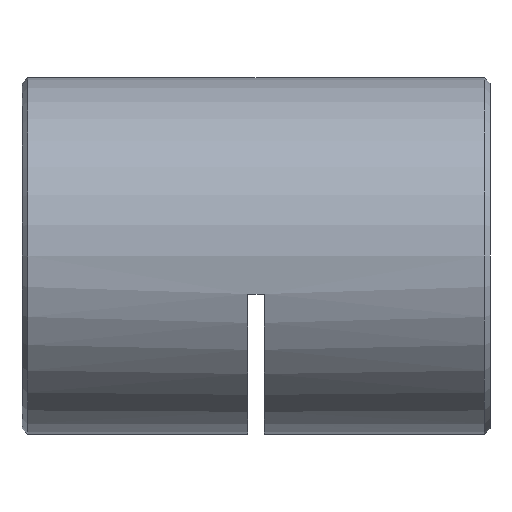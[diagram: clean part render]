
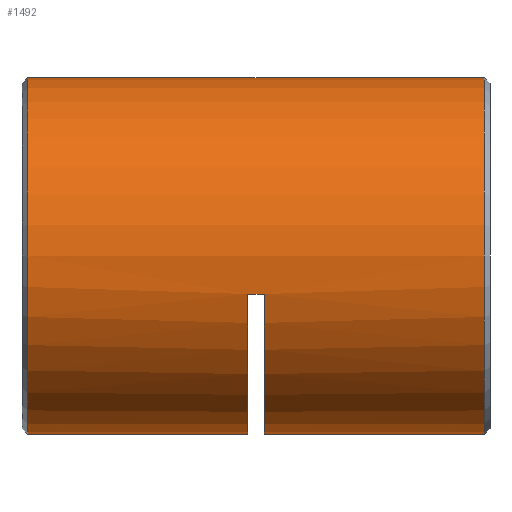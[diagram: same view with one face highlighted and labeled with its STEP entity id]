
A CAD part, left-side view. The second image highlights one B-rep face of the part: STEP entity #1492.
In plain terms, the highlighted cylindrical face has radius 16 mm (diameter 32 mm), a partial arc.
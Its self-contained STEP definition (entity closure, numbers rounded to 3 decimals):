
#22 = CYLINDRICAL_SURFACE ( 'NONE', #2921, 16. ) ;
#150 = VERTEX_POINT ( 'NONE', #2913 ) ;
#170 = VERTEX_POINT ( 'NONE', #2526 ) ;
#279 = VECTOR ( 'NONE', #691, 1000. ) ;
#377 = CARTESIAN_POINT ( 'NONE',  ( 0., 0.75, 0. ) ) ;
#420 = CARTESIAN_POINT ( 'NONE',  ( 0., 41.75, 0. ) ) ;
#630 = DIRECTION ( 'NONE',  ( 0., 0., -1. ) ) ;
#687 = DIRECTION ( 'NONE',  ( 0., 0., -1. ) ) ;
#691 = DIRECTION ( 'NONE',  ( 0., -1., 0. ) ) ;
#903 = CARTESIAN_POINT ( 'NONE',  ( 0., 20.5, 0. ) ) ;
#923 = DIRECTION ( 'NONE',  ( 0., -1., 0. ) ) ;
#943 = CARTESIAN_POINT ( 'NONE',  ( 0., 41.75, -16. ) ) ;
#971 = CIRCLE ( 'NONE', #5929, 16. ) ;
#1357 = DIRECTION ( 'NONE',  ( 0., 1., 0. ) ) ;
#1386 = EDGE_CURVE ( 'NONE', #4495, #4157, #1502, .T. ) ;
#1395 = VERTEX_POINT ( 'NONE', #943 ) ;
#1457 = ORIENTED_EDGE ( 'NONE', *, *, #2441, .T. ) ;
#1492 = ADVANCED_FACE ( 'NONE', ( #3980 ), #22, .T. ) ;
#1502 = CIRCLE ( 'NONE', #3112, 16. ) ;
#1560 = CARTESIAN_POINT ( 'NONE',  ( -15.632, 20.5, -3.413 ) ) ;
#1606 = EDGE_LOOP ( 'NONE', ( #2771, #4479, #1953, #2582, #1457, #2572, #4189, #3144 ) ) ;
#1626 = CARTESIAN_POINT ( 'NONE',  ( -15.632, 22., -3.413 ) ) ;
#1873 = CARTESIAN_POINT ( 'NONE',  ( 0., 22., 0. ) ) ;
#1953 = ORIENTED_EDGE ( 'NONE', *, *, #5222, .T. ) ;
#2117 = EDGE_CURVE ( 'NONE', #150, #170, #971, .T. ) ;
#2250 = CARTESIAN_POINT ( 'NONE',  ( -15.632, 21.25, -3.413 ) ) ;
#2441 = EDGE_CURVE ( 'NONE', #4231, #4495, #5826, .T. ) ;
#2470 = EDGE_CURVE ( 'NONE', #4157, #150, #4649, .T. ) ;
#2489 = CARTESIAN_POINT ( 'NONE',  ( 0., 41.75, 16. ) ) ;
#2526 = CARTESIAN_POINT ( 'NONE',  ( 0., 0.75, 16. ) ) ;
#2538 = DIRECTION ( 'NONE',  ( 0., -1., 0. ) ) ;
#2572 = ORIENTED_EDGE ( 'NONE', *, *, #1386, .T. ) ;
#2582 = ORIENTED_EDGE ( 'NONE', *, *, #5848, .F. ) ;
#2615 = DIRECTION ( 'NONE',  ( 0., -1., 0. ) ) ;
#2771 = ORIENTED_EDGE ( 'NONE', *, *, #3547, .F. ) ;
#2778 = VERTEX_POINT ( 'NONE', #2489 ) ;
#2913 = CARTESIAN_POINT ( 'NONE',  ( 0., 0.75, -16. ) ) ;
#2920 = DIRECTION ( 'NONE',  ( 0., 0., -1. ) ) ;
#2921 = AXIS2_PLACEMENT_3D ( 'NONE', #3596, #2615, #687 ) ;
#3053 = AXIS2_PLACEMENT_3D ( 'NONE', #1873, #6299, #3387 ) ;
#3054 = VECTOR ( 'NONE', #3345, 1000. ) ;
#3058 = CARTESIAN_POINT ( 'NONE',  ( 0., 20.5, -16. ) ) ;
#3112 = AXIS2_PLACEMENT_3D ( 'NONE', #903, #923, #2920 ) ;
#3144 = ORIENTED_EDGE ( 'NONE', *, *, #2117, .T. ) ;
#3345 = DIRECTION ( 'NONE',  ( 0., -1., 0. ) ) ;
#3387 = DIRECTION ( 'NONE',  ( 0., 0., -1. ) ) ;
#3440 = VECTOR ( 'NONE', #4328, 1000. ) ;
#3547 = EDGE_CURVE ( 'NONE', #2778, #170, #5892, .T. ) ;
#3596 = CARTESIAN_POINT ( 'NONE',  ( 0., 42.5, 0. ) ) ;
#3633 = LINE ( 'NONE', #4004, #5163 ) ;
#3811 = VERTEX_POINT ( 'NONE', #5456 ) ;
#3884 = CARTESIAN_POINT ( 'NONE',  ( 0., 42.5, 16. ) ) ;
#3980 = FACE_OUTER_BOUND ( 'NONE', #1606, .T. ) ;
#4004 = CARTESIAN_POINT ( 'NONE',  ( 0., 42.5, -16. ) ) ;
#4028 = CIRCLE ( 'NONE', #6150, 16. ) ;
#4157 = VERTEX_POINT ( 'NONE', #3058 ) ;
#4189 = ORIENTED_EDGE ( 'NONE', *, *, #2470, .T. ) ;
#4231 = VERTEX_POINT ( 'NONE', #1626 ) ;
#4328 = DIRECTION ( 'NONE',  ( 0., -1., 0. ) ) ;
#4355 = DIRECTION ( 'NONE',  ( 0., 0., 1. ) ) ;
#4479 = ORIENTED_EDGE ( 'NONE', *, *, #5506, .T. ) ;
#4495 = VERTEX_POINT ( 'NONE', #1560 ) ;
#4649 = LINE ( 'NONE', #5240, #3440 ) ;
#4682 = CIRCLE ( 'NONE', #3053, 16. ) ;
#5014 = DIRECTION ( 'NONE',  ( 0., -1., 0. ) ) ;
#5163 = VECTOR ( 'NONE', #2538, 1000. ) ;
#5222 = EDGE_CURVE ( 'NONE', #1395, #3811, #3633, .T. ) ;
#5240 = CARTESIAN_POINT ( 'NONE',  ( 0., 42.5, -16. ) ) ;
#5456 = CARTESIAN_POINT ( 'NONE',  ( 0., 22., -16. ) ) ;
#5506 = EDGE_CURVE ( 'NONE', #2778, #1395, #4028, .T. ) ;
#5826 = LINE ( 'NONE', #2250, #279 ) ;
#5848 = EDGE_CURVE ( 'NONE', #4231, #3811, #4682, .T. ) ;
#5892 = LINE ( 'NONE', #3884, #3054 ) ;
#5929 = AXIS2_PLACEMENT_3D ( 'NONE', #377, #1357, #4355 ) ;
#6150 = AXIS2_PLACEMENT_3D ( 'NONE', #420, #5014, #630 ) ;
#6299 = DIRECTION ( 'NONE',  ( 0., -1., 0. ) ) ;
